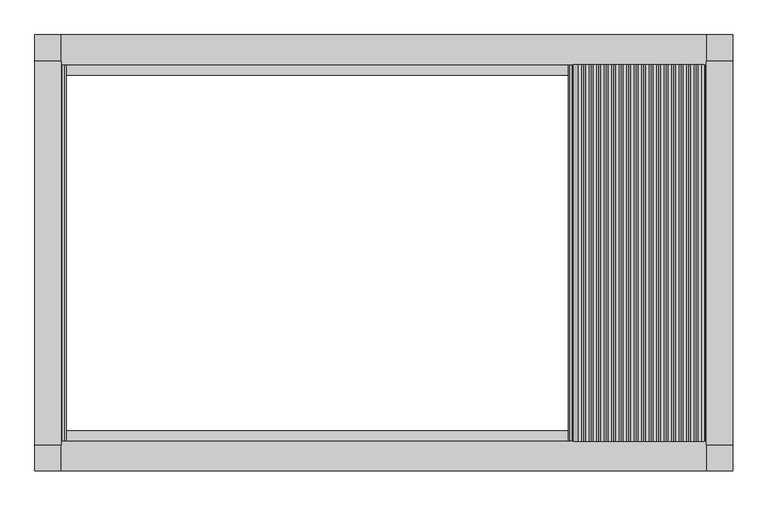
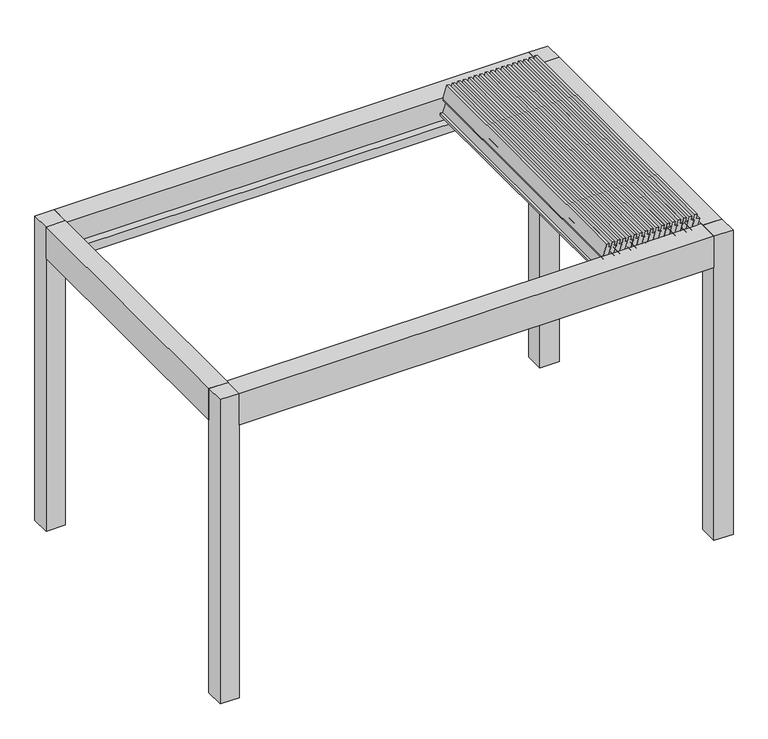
"""IFC4 building model written with IfcOpenShell, lengths in millimetres: proxy geometry, Renson_Camargue_Skye_Freestanding_Patio covers : Renson_Camargue_Skye_Freestanding_Patio covers."""

from ifc_helpers import new_model, si_unit, point, frame, frame_2d, origin, origin_with_axes, place, context, project, spatial, polyline, circle_curve, trimmed, segment, composite_curve, outline, extrude, source, transform, mapped, element, save


def generic_models_d3a7603d(model_context):
    return source(origin(), model_context, "Body", "SweptSolid", [
        extrude(outline(composite_curve([segment(polyline([(2560.9818996, 1794.956131), (2571.8315826, 1769.3958797), (2599.6835414, 1776.9891952), (2602.4384452, 1757.3870361), (2496.1922686, 1728.4210037)]), True, "CONTINUOUS"), segment(trimmed(circle_curve(frame_2d((2492.2468004, 1742.8928136)), 15.0), [point((2496.1922686, 1728.4210037))], [point((2479.0025865, 1735.8507402))], False, "CARTESIAN"), True, "CONTINUOUS"), segment(polyline([(2479.0025865, 1735.8507402), (2469.8355847, 1753.0913631), (2386.3939032, 1725.9795173), (2388.8074837, 1708.8059992), (2374.051463, 1704.7830463), (2363.0711546, 1730.6510318), (2560.9818996, 1794.956131)]), True, "CONTINUOUS")], self_intersect=False)), frame((0.0, -1080.0, 0.0), z_axis=(0.0, 1.0, 0.0), x_axis=(0.0, 0.0, 1.0)), (0.0, 0.0, 1.0), 2160.0),
        extrude(outline(composite_curve([segment(polyline([(2560.9818996, 1751.9453262), (2571.8315826, 1726.3850749), (2599.6835414, 1733.9783904), (2602.4384452, 1714.3762313), (2496.1922686, 1685.410199)]), True, "CONTINUOUS"), segment(trimmed(circle_curve(frame_2d((2492.2468004, 1699.8820088)), 15.0), [point((2496.1922686, 1685.410199))], [point((2479.0025865, 1692.8399354))], False, "CARTESIAN"), True, "CONTINUOUS"), segment(polyline([(2479.0025865, 1692.8399354), (2469.8355847, 1710.0805583), (2386.3939032, 1682.9687125), (2388.8074837, 1665.7951945), (2374.051463, 1661.7722415), (2363.0711546, 1687.6402271), (2560.9818996, 1751.9453262)]), True, "CONTINUOUS")], self_intersect=False)), frame((0.0, -1080.0, 0.0), z_axis=(0.0, 1.0, 0.0), x_axis=(0.0, 0.0, 1.0)), (0.0, 0.0, 1.0), 2160.0),
        extrude(outline(composite_curve([segment(polyline([(2560.9818996, 1708.9345214), (2571.8315826, 1683.3742701), (2599.6835414, 1690.9675857), (2602.4384452, 1671.3654266), (2496.1922686, 1642.3993942)]), True, "CONTINUOUS"), segment(trimmed(circle_curve(frame_2d((2492.2468004, 1656.871204)), 15.0), [point((2496.1922686, 1642.3993942))], [point((2479.0025865, 1649.8291306))], False, "CARTESIAN"), True, "CONTINUOUS"), segment(polyline([(2479.0025865, 1649.8291306), (2469.8355847, 1667.0697535), (2386.3939032, 1639.9579077), (2388.8074837, 1622.7843897), (2374.051463, 1618.7614367), (2363.0711546, 1644.6294223), (2560.9818996, 1708.9345214)]), True, "CONTINUOUS")], self_intersect=False)), frame((0.0, -1080.0, 0.0), z_axis=(0.0, 1.0, 0.0), x_axis=(0.0, 0.0, 1.0)), (0.0, 0.0, 1.0), 2160.0),
        extrude(outline(composite_curve([segment(polyline([(2560.9818996, 1665.9237167), (2571.8315826, 1640.3634654), (2599.6835414, 1647.9567809), (2602.4384452, 1628.3546218), (2496.1922686, 1599.3885894)]), True, "CONTINUOUS"), segment(trimmed(circle_curve(frame_2d((2492.2468004, 1613.8603993)), 15.0), [point((2496.1922686, 1599.3885894))], [point((2479.0025865, 1606.8183258))], False, "CARTESIAN"), True, "CONTINUOUS"), segment(polyline([(2479.0025865, 1606.8183258), (2469.8355847, 1624.0589488), (2386.3939032, 1596.947103), (2388.8074837, 1579.7735849), (2374.051463, 1575.7506319), (2363.0711546, 1601.6186175), (2560.9818996, 1665.9237167)]), True, "CONTINUOUS")], self_intersect=False)), frame((0.0, -1080.0, 0.0), z_axis=(0.0, 1.0, 0.0), x_axis=(0.0, 0.0, 1.0)), (0.0, 0.0, 1.0), 2160.0),
        extrude(outline(composite_curve([segment(polyline([(2560.9818996, 1622.9129119), (2571.8315826, 1597.3526606), (2599.6835414, 1604.9459761), (2602.4384452, 1585.343817), (2496.1922686, 1556.3777846)]), True, "CONTINUOUS"), segment(trimmed(circle_curve(frame_2d((2492.2468004, 1570.8495945)), 15.0), [point((2496.1922686, 1556.3777846))], [point((2479.0025865, 1563.807521))], False, "CARTESIAN"), True, "CONTINUOUS"), segment(polyline([(2479.0025865, 1563.807521), (2469.8355847, 1581.048144), (2386.3939032, 1553.9362982), (2388.8074837, 1536.7627801), (2374.051463, 1532.7398271), (2363.0711546, 1558.6078127), (2560.9818996, 1622.9129119)]), True, "CONTINUOUS")], self_intersect=False)), frame((0.0, -1080.0, 0.0), z_axis=(0.0, 1.0, 0.0), x_axis=(0.0, 0.0, 1.0)), (0.0, 0.0, 1.0), 2160.0),
        extrude(outline(composite_curve([segment(polyline([(2560.9818996, 1579.9021071), (2571.8315826, 1554.3418558), (2599.6835414, 1561.9351713), (2602.4384452, 1542.3330122), (2496.1922686, 1513.3669798)]), True, "CONTINUOUS"), segment(trimmed(circle_curve(frame_2d((2492.2468004, 1527.8387897)), 15.0), [point((2496.1922686, 1513.3669798))], [point((2479.0025865, 1520.7967162))], False, "CARTESIAN"), True, "CONTINUOUS"), segment(polyline([(2479.0025865, 1520.7967162), (2469.8355847, 1538.0373392), (2386.3939032, 1510.9254934), (2388.8074837, 1493.7519753), (2374.051463, 1489.7290223), (2363.0711546, 1515.5970079), (2560.9818996, 1579.9021071)]), True, "CONTINUOUS")], self_intersect=False)), frame((0.0, -1080.0, 0.0), z_axis=(0.0, 1.0, 0.0), x_axis=(0.0, 0.0, 1.0)), (0.0, 0.0, 1.0), 2160.0),
        extrude(outline(composite_curve([segment(polyline([(2560.9818996, 1536.8913023), (2571.8315826, 1511.331051), (2599.6835414, 1518.9243665), (2602.4384452, 1499.3222074), (2496.1922686, 1470.3561751)]), True, "CONTINUOUS"), segment(trimmed(circle_curve(frame_2d((2492.2468004, 1484.8279849)), 15.0), [point((2496.1922686, 1470.3561751))], [point((2479.0025865, 1477.7859115))], False, "CARTESIAN"), True, "CONTINUOUS"), segment(polyline([(2479.0025865, 1477.7859115), (2469.8355847, 1495.0265344), (2386.3939032, 1467.9146886), (2388.8074837, 1450.7411705), (2374.051463, 1446.7182176), (2363.0711546, 1472.5862032), (2560.9818996, 1536.8913023)]), True, "CONTINUOUS")], self_intersect=False)), frame((0.0, -1080.0, 0.0), z_axis=(0.0, 1.0, 0.0), x_axis=(0.0, 0.0, 1.0)), (0.0, 0.0, 1.0), 2160.0),
        extrude(outline(composite_curve([segment(polyline([(2560.9818996, 1493.8804975), (2571.8315826, 1468.3202462), (2599.6835414, 1475.9135617), (2602.4384452, 1456.3114026), (2496.1922686, 1427.3453703)]), True, "CONTINUOUS"), segment(trimmed(circle_curve(frame_2d((2492.2468004, 1441.8171801)), 15.0), [point((2496.1922686, 1427.3453703))], [point((2479.0025865, 1434.7751067))], False, "CARTESIAN"), True, "CONTINUOUS"), segment(polyline([(2479.0025865, 1434.7751067), (2469.8355847, 1452.0157296), (2386.3939032, 1424.9038838), (2388.8074837, 1407.7303658), (2374.051463, 1403.7074128), (2363.0711546, 1429.5753984), (2560.9818996, 1493.8804975)]), True, "CONTINUOUS")], self_intersect=False)), frame((0.0, -1080.0, 0.0), z_axis=(0.0, 1.0, 0.0), x_axis=(0.0, 0.0, 1.0)), (0.0, 0.0, 1.0), 2160.0),
        extrude(outline(composite_curve([segment(polyline([(2560.9818996, 1450.8696927), (2571.8315826, 1425.3094415), (2599.6835414, 1432.902757), (2602.4384452, 1413.3005979), (2496.1922686, 1384.3345655)]), True, "CONTINUOUS"), segment(trimmed(circle_curve(frame_2d((2492.2468004, 1398.8063753)), 15.0), [point((2496.1922686, 1384.3345655))], [point((2479.0025865, 1391.7643019))], False, "CARTESIAN"), True, "CONTINUOUS"), segment(polyline([(2479.0025865, 1391.7643019), (2469.8355847, 1409.0049249), (2386.3939032, 1381.893079), (2388.8074837, 1364.719561), (2374.051463, 1360.696608), (2363.0711546, 1386.5645936), (2560.9818996, 1450.8696927)]), True, "CONTINUOUS")], self_intersect=False)), frame((0.0, -1080.0, 0.0), z_axis=(0.0, 1.0, 0.0), x_axis=(0.0, 0.0, 1.0)), (0.0, 0.0, 1.0), 2160.0),
        extrude(outline(composite_curve([segment(polyline([(2560.9818996, 1407.858888), (2571.8315826, 1382.2986367), (2599.6835414, 1389.8919522), (2602.4384452, 1370.2897931), (2496.1922686, 1341.3237607)]), True, "CONTINUOUS"), segment(trimmed(circle_curve(frame_2d((2492.2468004, 1355.7955706)), 15.0), [point((2496.1922686, 1341.3237607))], [point((2479.0025865, 1348.7534971))], False, "CARTESIAN"), True, "CONTINUOUS"), segment(polyline([(2479.0025865, 1348.7534971), (2469.8355847, 1365.9941201), (2386.3939032, 1338.8822743), (2388.8074837, 1321.7087562), (2374.051463, 1317.6858032), (2363.0711546, 1343.5537888), (2560.9818996, 1407.858888)]), True, "CONTINUOUS")], self_intersect=False)), frame((0.0, -1080.0, 0.0), z_axis=(0.0, 1.0, 0.0), x_axis=(0.0, 0.0, 1.0)), (0.0, 0.0, 1.0), 2160.0),
        extrude(outline(composite_curve([segment(polyline([(2560.9818996, 1364.8480832), (2571.8315826, 1339.2878319), (2599.6835414, 1346.8811474), (2602.4384452, 1327.2789883), (2496.1922686, 1298.3129559)]), True, "CONTINUOUS"), segment(trimmed(circle_curve(frame_2d((2492.2468004, 1312.7847658)), 15.0), [point((2496.1922686, 1298.3129559))], [point((2479.0025865, 1305.7426923))], False, "CARTESIAN"), True, "CONTINUOUS"), segment(polyline([(2479.0025865, 1305.7426923), (2469.8355847, 1322.9833153), (2386.3939032, 1295.8714695), (2388.8074837, 1278.6979514), (2374.051463, 1274.6749984), (2363.0711546, 1300.542984), (2560.9818996, 1364.8480832)]), True, "CONTINUOUS")], self_intersect=False)), frame((0.0, -1080.0, 0.0), z_axis=(0.0, 1.0, 0.0), x_axis=(0.0, 0.0, 1.0)), (0.0, 0.0, 1.0), 2160.0),
        extrude(outline(composite_curve([segment(polyline([(2560.9818996, 1321.8372784), (2571.8315826, 1296.2770271), (2599.6835414, 1303.8703426), (2602.4384452, 1284.2681835), (2496.1922686, 1255.3021511)]), True, "CONTINUOUS"), segment(trimmed(circle_curve(frame_2d((2492.2468004, 1269.773961)), 15.0), [point((2496.1922686, 1255.3021511))], [point((2479.0025865, 1262.7318876))], False, "CARTESIAN"), True, "CONTINUOUS"), segment(polyline([(2479.0025865, 1262.7318876), (2469.8355847, 1279.9725105), (2386.3939032, 1252.8606647), (2388.8074837, 1235.6871466), (2374.051463, 1231.6641937), (2363.0711546, 1257.5321792), (2560.9818996, 1321.8372784)]), True, "CONTINUOUS")], self_intersect=False)), frame((0.0, -1080.0, 0.0), z_axis=(0.0, 1.0, 0.0), x_axis=(0.0, 0.0, 1.0)), (0.0, 0.0, 1.0), 2160.0),
        extrude(outline(composite_curve([segment(polyline([(2560.9818996, 1278.8264736), (2571.8315826, 1253.2662223), (2599.6835414, 1260.8595378), (2602.4384452, 1241.2573787), (2496.1922686, 1212.2913464)]), True, "CONTINUOUS"), segment(trimmed(circle_curve(frame_2d((2492.2468004, 1226.7631562)), 15.0), [point((2496.1922686, 1212.2913464))], [point((2479.0025865, 1219.7210828))], False, "CARTESIAN"), True, "CONTINUOUS"), segment(polyline([(2479.0025865, 1219.7210828), (2469.8355847, 1236.9617057), (2386.3939032, 1209.8498599), (2388.8074837, 1192.6763419), (2374.051463, 1188.6533889), (2363.0711546, 1214.5213745), (2560.9818996, 1278.8264736)]), True, "CONTINUOUS")], self_intersect=False)), frame((0.0, -1080.0, 0.0), z_axis=(0.0, 1.0, 0.0), x_axis=(0.0, 0.0, 1.0)), (0.0, 0.0, 1.0), 2160.0),
        extrude(outline(composite_curve([segment(polyline([(2560.9818996, 1235.8156688), (2571.8315826, 1210.2554175), (2599.6835414, 1217.8487331), (2602.4384452, 1198.246574), (2496.1922686, 1169.2805416)]), True, "CONTINUOUS"), segment(trimmed(circle_curve(frame_2d((2492.2468004, 1183.7523514)), 15.0), [point((2496.1922686, 1169.2805416))], [point((2479.0025865, 1176.710278))], False, "CARTESIAN"), True, "CONTINUOUS"), segment(polyline([(2479.0025865, 1176.710278), (2469.8355847, 1193.9509009), (2386.3939032, 1166.8390551), (2388.8074837, 1149.6655371), (2374.051463, 1145.6425841), (2363.0711546, 1171.5105697), (2560.9818996, 1235.8156688)]), True, "CONTINUOUS")], self_intersect=False)), frame((0.0, -1080.0, 0.0), z_axis=(0.0, 1.0, 0.0), x_axis=(0.0, 0.0, 1.0)), (0.0, 0.0, 1.0), 2160.0),
        extrude(outline(composite_curve([segment(polyline([(2560.9818996, 1192.8048641), (2571.8315826, 1167.2446128), (2599.6835414, 1174.8379283), (2602.4384452, 1155.2357692), (2496.1922686, 1126.2697368)]), True, "CONTINUOUS"), segment(trimmed(circle_curve(frame_2d((2492.2468004, 1140.7415467)), 15.0), [point((2496.1922686, 1126.2697368))], [point((2479.0025865, 1133.6994732))], False, "CARTESIAN"), True, "CONTINUOUS"), segment(polyline([(2479.0025865, 1133.6994732), (2469.8355847, 1150.9400962), (2386.3939032, 1123.8282504), (2388.8074837, 1106.6547323), (2374.051463, 1102.6317793), (2363.0711546, 1128.4997649), (2560.9818996, 1192.8048641)]), True, "CONTINUOUS")], self_intersect=False)), frame((0.0, -1080.0, 0.0), z_axis=(0.0, 1.0, 0.0), x_axis=(0.0, 0.0, 1.0)), (0.0, 0.0, 1.0), 2160.0),
        extrude(outline(composite_curve([segment(polyline([(2560.9818996, 1837.9669358), (2571.8315826, 1812.4066845), (2599.6835414, 1820.0), (2602.4384452, 1800.3978409), (2496.1922686, 1771.4318085)]), True, "CONTINUOUS"), segment(trimmed(circle_curve(frame_2d((2492.2468004, 1785.9036184)), 15.0), [point((2496.1922686, 1771.4318085))], [point((2479.0025865, 1778.8615449))], False, "CARTESIAN"), True, "CONTINUOUS"), segment(polyline([(2479.0025865, 1778.8615449), (2469.8355847, 1796.1021679), (2386.3939032, 1768.9903221), (2388.8074837, 1751.816804), (2374.051463, 1747.793851), (2363.0711546, 1773.6618366), (2560.9818996, 1837.9669358)]), True, "CONTINUOUS")], self_intersect=False)), frame((0.0, -1080.0, 0.0), z_axis=(0.0, 1.0, 0.0), x_axis=(0.0, 0.0, 1.0)), (0.0, 0.0, 1.0), 2160.0),
        extrude(outline(composite_curve([segment(polyline([(2560.9818996, 1149.7940593), (2571.8315826, 1124.233808), (2599.6835414, 1131.8271235), (2602.4384452, 1112.2249644), (2496.1922686, 1083.258932)]), True, "CONTINUOUS"), segment(trimmed(circle_curve(frame_2d((2492.2468004, 1097.7307419)), 15.0), [point((2496.1922686, 1083.258932))], [point((2479.0025865, 1090.6886684))], False, "CARTESIAN"), True, "CONTINUOUS"), segment(polyline([(2479.0025865, 1090.6886684), (2469.8355847, 1107.9292914), (2386.3939032, 1080.8174456), (2388.8074837, 1063.6439275), (2374.051463, 1059.6209745), (2363.0711546, 1085.4889601), (2560.9818996, 1149.7940593)]), True, "CONTINUOUS")], self_intersect=False)), frame((0.0, -1080.0, 0.0), z_axis=(0.0, 1.0, 0.0), x_axis=(0.0, 0.0, 1.0)), (0.0, 0.0, 1.0), 2160.0),
        extrude(outline(polyline([(2441.6559373, -1850.0), (2441.6559373, -1824.0), (2455.6555802, -1820.2487113), (2455.6555802, -1829.5940945), (2471.400763, -1845.0), (2479.2449277, -1845.0), (2479.6823598, -1850.0), (2441.6559373, -1850.0)])), frame((0.0, -1100.0, 0.0), z_axis=(0.0, 1.0, 0.0), x_axis=(0.0, 0.0, 1.0)), (0.0, 0.0, 1.0), 2200.0),
        extrude(outline(polyline([(-1850.0, -1100.0), (-2000.0, -1100.0), (-2000.0, 1100.0), (-1850.0, 1100.0), (-1850.0, -1100.0)])), frame((0.0, 0.0, 2250.0), z_axis=(0.0, 0.0, 1.0), x_axis=(1.0, 0.0, 0.0)), (0.0, 0.0, 1.0), 260.0),
        extrude(outline(polyline([(2510.0, 2000.0), (2510.0, 1850.0), (2479.6904658, 1850.0), (2479.2449277, 1845.0), (2471.400763, 1845.0), (2455.6555802, 1829.2544156), (2455.6555802, 1819.9090324), (2441.6559373, 1823.6603211), (2441.6559373, 1850.0), (2250.0, 1850.0), (2250.0, 2000.0), (2510.0, 2000.0)])), frame((0.0, -1100.0, 0.0), z_axis=(0.0, 1.0, 0.0), x_axis=(0.0, 0.0, 1.0)), (0.0, 0.0, 1.0), 2200.0),
        extrude(outline(polyline([(-1080.0, 2510.0), (-1080.0, 2322.0), (-1020.0, 2322.0), (-1020.0, 2250.0), (-1250.0, 2250.0), (-1250.0, 2510.0), (-1080.0, 2510.0)])), frame((-1850.0, 0.0, 0.0), z_axis=(1.0, 0.0, 0.0), x_axis=(0.0, 1.0, 0.0)), (0.0, 0.0, 1.0), 3700.0),
        extrude(outline(polyline([(1250.0, 2250.0), (1020.0, 2250.0), (1020.0, 2322.0), (1080.0, 2322.0), (1080.0, 2510.0), (1250.0, 2510.0), (1250.0, 2250.0)])), frame((-1850.0, 0.0, 0.0), z_axis=(1.0, 0.0, 0.0), x_axis=(0.0, 1.0, 0.0)), (0.0, 0.0, 1.0), 3700.0),
        extrude(outline(polyline([(-1850.0, 1250.0), (-1850.0, 1100.0), (-2000.0, 1100.0), (-2000.0, 1250.0), (-1850.0, 1250.0)])), origin_with_axes(), (0.0, 0.0, 1.0), 2510.0),
        extrude(outline(polyline([(2000.0, 1250.0), (2000.0, 1100.0), (1850.0, 1100.0), (1850.0, 1250.0), (2000.0, 1250.0)])), origin_with_axes(), (0.0, 0.0, 1.0), 2510.0),
        extrude(outline(polyline([(2000.0, -1100.0), (2000.0, -1250.0), (1850.0, -1250.0), (1850.0, -1100.0), (2000.0, -1100.0)])), origin_with_axes(), (0.0, 0.0, 1.0), 2510.0),
        extrude(outline(polyline([(-1850.0, -1100.0), (-1850.0, -1250.0), (-2000.0, -1250.0), (-2000.0, -1100.0), (-1850.0, -1100.0)])), origin_with_axes(), (0.0, 0.0, 1.0), 2510.0),
    ])


if __name__ == "__main__":
    model = new_model("IFC4")
    model_context = context("Model", 3, world=origin())
    ifc_project = project(units=[si_unit("LENGTHUNIT", "METRE", prefix="MILLI")], contexts=[model_context])
    site = spatial("IfcSite", under=ifc_project)
    building = spatial("IfcBuilding", under=site)
    placement = place(None, origin())
    generic_models_shape = generic_models_d3a7603d(model_context)
    element("IfcBuildingElementProxy", 1, Name="Renson_Camargue_Skye_Freestanding_Patio covers : Renson_Camargue_Skye_Freestanding_Patio covers", ObjectType="Renson_Camargue_Skye_Freestanding_Patio covers : Renson_Camargue_Skye_Freestanding_Patio covers", at=placement, inside=building, context=model_context, shape_type="MappedRepresentation", body=[
        mapped(generic_models_shape, transform((0.0, 0.0, 0.0), x_axis=(1.0, 0.0, 0.0), y_axis=(0.0, 1.0, 0.0), z_axis=(0.0, 0.0, 1.0))),
    ])
    save(model, "model.ifc")
